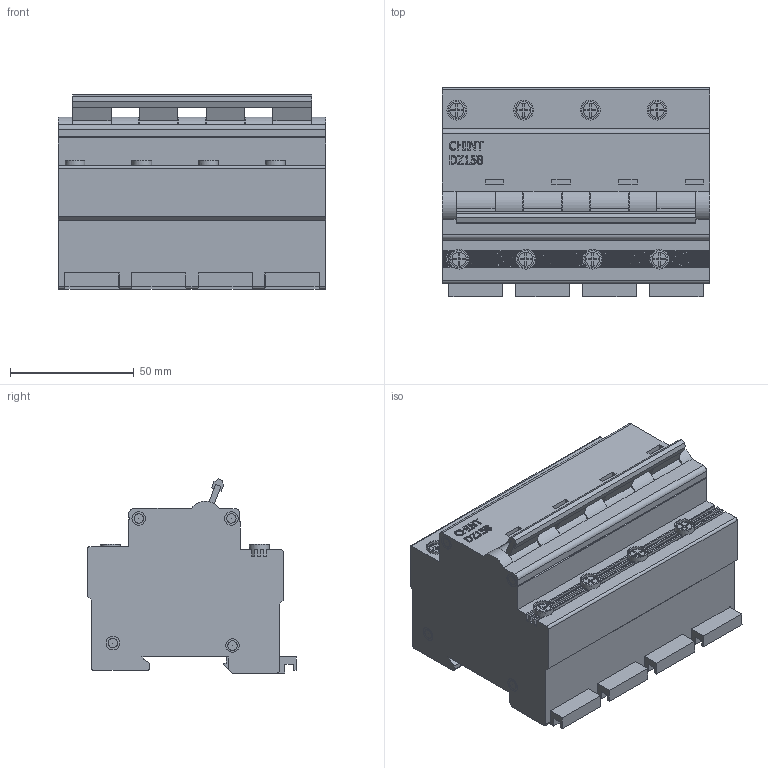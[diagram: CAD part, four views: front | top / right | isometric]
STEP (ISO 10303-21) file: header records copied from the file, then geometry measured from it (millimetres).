
FILE_DESCRIPTION(/* description */ (''),/* implementation_level */ '2;1');
FILE_NAME(/* name */ 'D:\CHINT\DZ158\Авт. выкл. DZ158 4P 63A 10kA х-ка (8-12In) (R) (CHINT).stp',/* time_stamp */ '2017-09-24T18:59:23+04:00',/* author */ ('RSagdiev'),/* organization */ (''),/* preprocessor_version */ 'ST-DEVELOPER v16.5',/* originating_system */ 'Autodesk Inventor 2017',/* authorisation */ '');
FILE_SCHEMA (('AUTOMOTIVE_DESIGN { 1 0 10303 214 3 1 1 }'));
Length unit declared in the file: millimetre
Products named in the file (1): Авт. выкл. DZ158 4P 63A 10kA \X2\0445
\X0\-ка (8-12In) (R) (CHINT)
Bounding box: 108 x 84.5 x 78.49 mm (x, y, z)
Volume: 479545 mm3; surface area: 61591.2 mm2
Topology: 18 solids, 18 shells, 758 faces, 1935 edges, 1274 vertices
Faces by surface type: plane 494, cylinder 199, bspline 57, torus 8
Full cylindrical faces by diameter (mm): 0.001 x17, 3.794 x24, 5.491 x20, 7 x8, 8 x8
Entity records: 23595 total; most frequent: CARTESIAN_POINT 5683, ORIENTED_EDGE 3676, DIRECTION 3418, EDGE_CURVE 1838, VERTEX_POINT 1262, LINE 1242, VECTOR 1242, AXIS2_PLACEMENT_3D 1088
